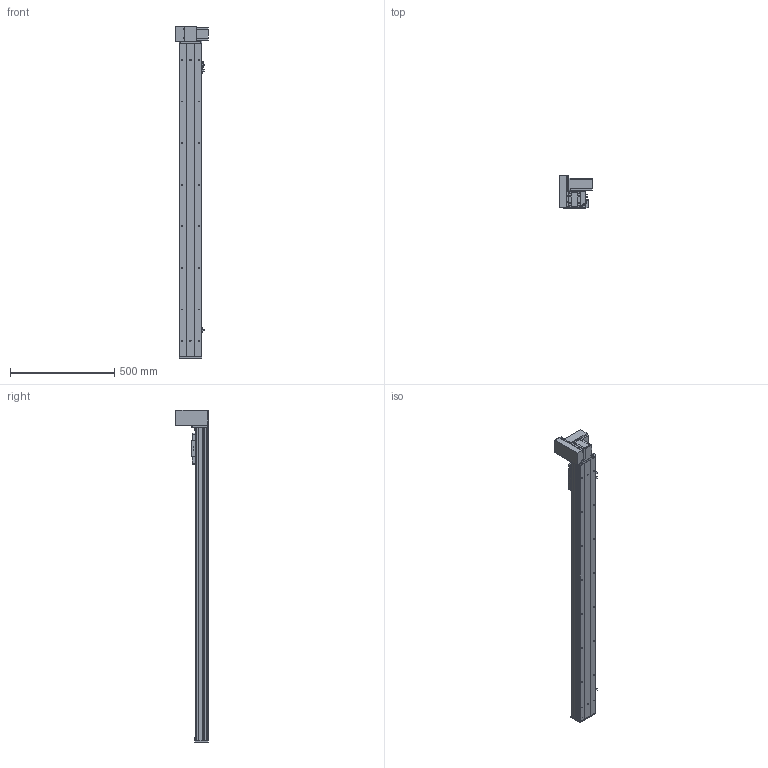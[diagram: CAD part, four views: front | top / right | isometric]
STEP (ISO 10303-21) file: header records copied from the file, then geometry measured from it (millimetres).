
FILE_DESCRIPTION (( 'STEP AP203' ), '1' );
FILE_NAME ('Y10CB-D90-S1250-UL-P400W.STEP', '2020-02-16T07:50:08', ( '微软用户' ), ( '微软中国' ), 'SwSTEP 2.0', 'SolidWorks 2017', '' );
FILE_SCHEMA (( 'CONFIG_CONTROL_DESIGN' ));
Length unit declared in the file: millimetre
Products named in the file (18): Y100-135俋离換覜ん--; 0B-源倛裔啣; Y10B-耜蚾蟀諉啣----; 0B-埴倛裔啣; 00B-俋欶BM--; 10CB-詩湍-; Y10B--々湍喘謫眊--666; Y10CB- 掛极耜裔啣-毀---; 0CB-雄赽釱---; Y10CB-D90-S1250-UL-P400W; Y10C---詩湍揤啣; 0Cb-俋欶---; 10CB9-掛极; Y10B-々湍喘謫眊楊擘啣--; 10CB-耜裔; 0B-萇儂楊擘啣; Y135C-陔俋离換覜結え-; san松下电机400不带刹车----
Assembly tree (21 placements, depth 2):
  Y10CB-D90-S1250-UL-P400W
    0CB-雄赽釱---
    0Cb-俋欶---
    Y10B-々湍喘謫眊楊擘啣--
    0B-萇儂楊擘啣
    san松下电机400不带刹车----
    0B-源倛裔啣
    0B-埴倛裔啣
    10CB-詩湍-
    Y10CB- 掛极耜裔啣-毀---  x2
    Y10C---詩湍揤啣  x2
    10CB9-掛极
    10CB-耜裔
    Y135C-陔俋离換覜結え-
    Y100-135俋离換覜ん--  x3
    Y10B-耜蚾蟀諉啣----
    00B-俋欶BM--
    Y10B--々湍喘謫眊--666
Bounding box: 157 x 155.5 x 1596 mm (x, y, z)
Volume: 3572213.2 mm3; surface area: 1631601.4 mm2
Topology: 21 solids, 21 shells, 1002 faces, 2683 edges, 1754 vertices
Faces by surface type: cylinder 499, plane 479, cone 24
Entity records: 31412 total; most frequent: CARTESIAN_POINT 5617, DIRECTION 5066, ORIENTED_EDGE 4836, EDGE_CURVE 2418, AXIS2_PLACEMENT_3D 1813, VERTEX_POINT 1580, LINE 1440, VECTOR 1440
